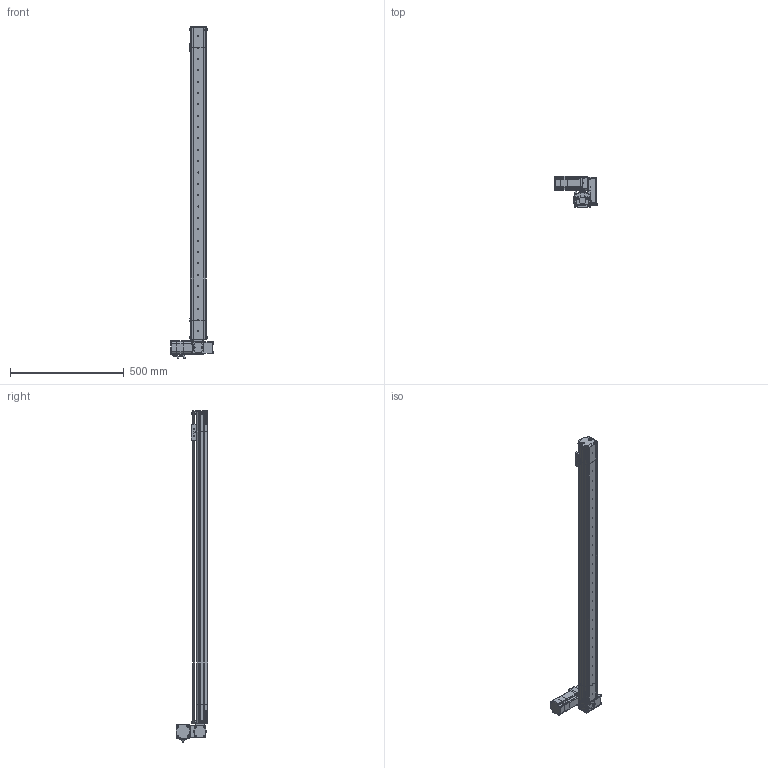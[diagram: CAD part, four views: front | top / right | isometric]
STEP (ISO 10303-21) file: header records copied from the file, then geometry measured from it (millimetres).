
FILE_DESCRIPTION (( 'STEP AP214' ), '1' );
FILE_NAME ('S07 TBN LT S1200.STEP', '2010-06-29T11:56:50', ( 'Conseil Régional Haute-Normandie' ), ( 'Conseil Régional Haute-Normandie' ), 'SwSTEP 2.0', 'SolidWorks 2010', '' );
FILE_SCHEMA (( 'AUTOMOTIVE_DESIGN' ));
Length unit declared in the file: millimetre
Products named in the file (41): Conecteur2 60BLDC_Default; Axe 60BLDC_Default; cache t皻e_Default; vis M5 L5_Default; P4_Default; P3 90A_Default; P2 90A_Default; P1_Default; GMB 60 90 310_Default; renvoi LT_Default; Conecteur 60BLDC_Default; Plaque racord_Default; Couroie t皻e_Default; Pièce5^S07 LT(146); Cvis M5 L30_Default; CHariot_Default; couroie tail_Default; guide; S07 TB tail (78)_Default; Vis M5 L16-2_Default; vis M5 L12_Default; Poulie_Default; T皻e de poulie_Default; couvercle tail TB; plaque de bout_Default; corp tail TB_Default; VisM3_Default; vis M5 L16_Default; Chariot; Poulie head_Default; cache t皻e axe_Default; couvercle moteur S07 TB; couvercle S07 course 1200 ; Couroie  course 1200_Default; plaque de bout LT_Default; corp moteur TB(146)_Default; S07 LT(146)_Default; Corp S07 course 1200_Default; S07 TBN LT S1200; Course C L1200_Default
Assembly tree (80 placements, depth 4):
  Pièce5^S07 LT(146)
  S07 TBN LT S1200
    CHariot_Default
      vis M5 L16_Default  x2
      Chariot
      guide
    S07 TB tail (78)_Default
      vis M5 L12_Default  x10
      Poulie_Default
        Poulie_Default
        T皻e de poulie_Default
      plaque de bout_Default
      couvercle tail TB
      corp tail TB_Default
      couroie tail_Default
    Course C L1200_Default
      Corp S07 course 1200_Default
      couvercle S07 course 1200 
      Couroie  course 1200_Default
    S07 LT(146)_Default
      vis M5 L5_Default  x6
      GMB 60 90 310_Default
        VisM3_Default  x12
        P3 90A_Default
        Axe 60BLDC_Default
        P2 90A_Default
        P4_Default
        P1_Default
        Conecteur 60BLDC_Default
        Conecteur2 60BLDC_Default
      cache t皻e_Default  x2
      Vis M5 L16-2_Default  x8
      Cvis M5 L30_Default  x2
      cache t皻e axe_Default
      Couroie t皻e_Default
      vis M5 L12_Default  x6
      renvoi LT_Default
      Poulie head_Default
      plaque de bout LT_Default
      corp moteur TB(146)_Default
      couvercle moteur S07 TB
      Plaque racord_Default
Bounding box: 190.2 x 139.5 x 1462 mm (x, y, z)
Volume: 2970432.7 mm3; surface area: 1279132 mm2
Topology: 102 solids, 102 shells, 3946 faces, 9816 edges, 6341 vertices
Faces by surface type: plane 2238, cylinder 778, bspline 677, cone 125, torus 124, sphere 4
Entity records: 167829 total; most frequent: CARTESIAN_POINT 75297, ORIENTED_EDGE 15544, DIRECTION 12419, EDGE_CURVE 7772, VERTEX_POINT 5129, VECTOR 5061, LINE 5061, AXIS2_PLACEMENT_3D 3679
